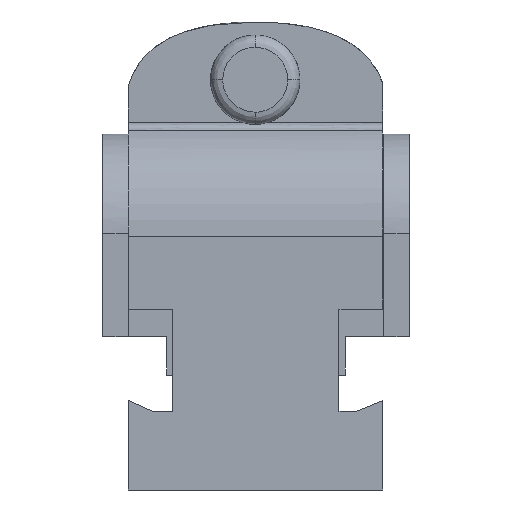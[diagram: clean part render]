
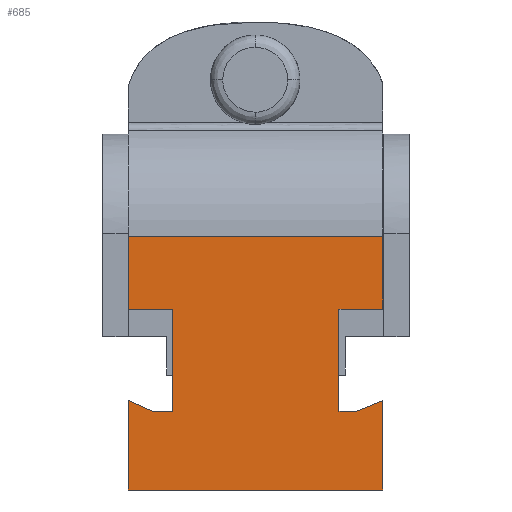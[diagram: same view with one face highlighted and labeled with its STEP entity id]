
A CAD part, left-side view. The second image highlights one B-rep face of the part: STEP entity #685.
In plain terms, the highlighted planar face has unit normal (-1, 0, 0).
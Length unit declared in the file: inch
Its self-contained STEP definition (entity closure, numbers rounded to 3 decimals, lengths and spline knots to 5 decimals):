
#611=EDGE_CURVE('',#1743,#1744,#1745,.T.);
#675=EDGE_CURVE('',#1858,#1859,#1860,.T.);
#685=ADVANCED_FACE('',(#1875),#1876,.T.);
#715=EDGE_CURVE('',#1927,#1743,#1928,.T.);
#761=EDGE_CURVE('',#2002,#2003,#2004,.T.);
#905=EDGE_CURVE('',#1879,#1708,#2229,.T.);
#953=EDGE_CURVE('',#2103,#2002,#2300,.T.);
#1047=EDGE_CURVE('',#1859,#1893,#2433,.T.);
#1083=EDGE_CURVE('',#1893,#2481,#2482,.T.);
#1259=EDGE_CURVE('',#2481,#2709,#2710,.T.);
#1315=EDGE_CURVE('',#2775,#1879,#2776,.T.);
#1355=EDGE_CURVE('',#1708,#2103,#2820,.T.);
#1499=EDGE_CURVE('',#2709,#2775,#2993,.T.);
#1515=EDGE_CURVE('',#1744,#1858,#3011,.T.);
#1659=EDGE_CURVE('',#1927,#2003,#3175,.T.);
#1708=VERTEX_POINT('',#3226);
#1743=VERTEX_POINT('',#3346);
#1744=VERTEX_POINT('',#3347);
#1745=LINE('',#3348,#3349);
#1858=VERTEX_POINT('',#3524);
#1859=VERTEX_POINT('',#3525);
#1860=LINE('',#3526,#3527);
#1875=FACE_OUTER_BOUND('',#3569,.T.);
#1876=PLANE('',#3570);
#1879=VERTEX_POINT('',#3574);
#1893=VERTEX_POINT('',#3598);
#1927=VERTEX_POINT('',#3648);
#1928=LINE('',#3649,#3650);
#2002=VERTEX_POINT('',#3783);
#2003=VERTEX_POINT('',#3784);
#2004=LINE('',#3785,#3786);
#2103=VERTEX_POINT('',#3961);
#2229=LINE('',#4204,#4205);
#2300=LINE('',#4320,#4321);
#2433=LINE('',#4586,#4587);
#2481=VERTEX_POINT('',#4738);
#2482=LINE('',#4739,#4740);
#2709=VERTEX_POINT('',#5229);
#2710=LINE('',#5230,#5231);
#2775=VERTEX_POINT('',#5382);
#2776=LINE('',#5383,#5384);
#2820=LINE('',#5575,#5576);
#2993=LINE('',#5923,#5924);
#3011=LINE('',#5964,#5965);
#3175=LINE('',#6335,#6336);
#3226=CARTESIAN_POINT('',(0.0,0.21526,0.38513));
#3346=CARTESIAN_POINT('',(0.0,1.24627,0.88521));
#3347=CARTESIAN_POINT('',(0.0,1.02776,0.88521));
#3348=CARTESIAN_POINT('',(0.0,1.19351,0.88521));
#3349=VECTOR('',#6394,1.0);
#3524=CARTESIAN_POINT('',(0.0,1.02776,0.38513));
#3525=CARTESIAN_POINT('',(0.0,1.12731,0.38513));
#3526=CARTESIAN_POINT('',(0.0,1.16377,0.38513));
#3527=VECTOR('',#6500,1.0);
#3569=EDGE_LOOP('',(#6535,#6536,#6537,#6538,#6539,#6540,#6541,#6542,#6543,#6544,#6545,#6546,#6547,#6548));
#3570=AXIS2_PLACEMENT_3D('',#6549,#6550,#6551);
#3574=CARTESIAN_POINT('',(0.0,0.12731,0.38513));
#3598=CARTESIAN_POINT('',(0.0,1.24627,0.4384));
#3648=CARTESIAN_POINT('',(0.0,1.24627,1.24081));
#3649=CARTESIAN_POINT('',(0.0,1.24627,1.02625));
#3650=VECTOR('',#6585,1.0);
#3783=CARTESIAN_POINT('',(0.0,0.0,0.88521));
#3784=CARTESIAN_POINT('',(0.0,0.0,1.24081));
#3785=CARTESIAN_POINT('',(0.0,0.0,1.24081));
#3786=VECTOR('',#6667,1.0);
#3961=CARTESIAN_POINT('',(0.0,0.21526,0.88521));
#4204=CARTESIAN_POINT('',(0.0,0.71064,0.38513));
#4205=VECTOR('',#6830,1.0);
#4320=CARTESIAN_POINT('',(0.0,0.67788,0.88521));
#4321=VECTOR('',#6925,1.0);
#4586=CARTESIAN_POINT('',(0.,1.25203,0.44098));
#4587=VECTOR('',#7039,1.0);
#4738=CARTESIAN_POINT('',(0.0,1.24627,0.0));
#4739=CARTESIAN_POINT('',(0.0,1.24627,0.41709));
#4740=VECTOR('',#7082,1.0);
#5229=CARTESIAN_POINT('',(0.0,0.0,0.0));
#5230=CARTESIAN_POINT('',(0.0,1.25,0.0));
#5231=VECTOR('',#7368,1.0);
#5382=CARTESIAN_POINT('',(0.0,0.0,0.43689));
#5383=CARTESIAN_POINT('',(0.,0.53524,0.21929));
#5384=VECTOR('',#7429,1.);
#5575=CARTESIAN_POINT('',(0.0,0.21526,0.62779));
#5576=VECTOR('',#7457,1.0);
#5923=CARTESIAN_POINT('',(0.0,0.0,1.24081));
#5924=VECTOR('',#7668,1.0);
#5964=CARTESIAN_POINT('',(0.0,1.02776,0.62779));
#5965=VECTOR('',#7685,1.0);
#6335=CARTESIAN_POINT('',(0.0,1.25,1.24081));
#6336=VECTOR('',#7881,1.0);
#6394=DIRECTION('',(0.0,-1.0,0.0));
#6500=DIRECTION('',(-0.0,1.0,-0.0));
#6535=ORIENTED_EDGE('',*,*,#715,.T.);
#6536=ORIENTED_EDGE('',*,*,#611,.T.);
#6537=ORIENTED_EDGE('',*,*,#1515,.T.);
#6538=ORIENTED_EDGE('',*,*,#675,.T.);
#6539=ORIENTED_EDGE('',*,*,#1047,.T.);
#6540=ORIENTED_EDGE('',*,*,#1083,.T.);
#6541=ORIENTED_EDGE('',*,*,#1259,.T.);
#6542=ORIENTED_EDGE('',*,*,#1499,.T.);
#6543=ORIENTED_EDGE('',*,*,#1315,.T.);
#6544=ORIENTED_EDGE('',*,*,#905,.T.);
#6545=ORIENTED_EDGE('',*,*,#1355,.T.);
#6546=ORIENTED_EDGE('',*,*,#953,.T.);
#6547=ORIENTED_EDGE('',*,*,#761,.T.);
#6548=ORIENTED_EDGE('',*,*,#1659,.F.);
#6549=CARTESIAN_POINT('',(0.0,1.25,0.62041));
#6550=DIRECTION('',(-1.0,0.0,0.0));
#6551=DIRECTION('',(0.0,0.0,-1.0));
#6585=DIRECTION('',(0.0,-0.0,-1.0));
#6667=DIRECTION('',(0.0,0.0,1.0));
#6830=DIRECTION('',(-0.0,1.0,-0.0));
#6925=DIRECTION('',(0.0,-1.0,0.0));
#7039=DIRECTION('',(0.0,0.913,0.409));
#7082=DIRECTION('',(0.0,-0.0,-1.0));
#7368=DIRECTION('',(0.0,-1.0,0.0));
#7429=DIRECTION('',(-0.0,0.926,-0.377));
#7457=DIRECTION('',(0.0,0.0,1.0));
#7668=DIRECTION('',(0.0,0.0,1.0));
#7685=DIRECTION('',(0.0,-0.0,-1.0));
#7881=DIRECTION('',(0.0,-1.0,0.0));
